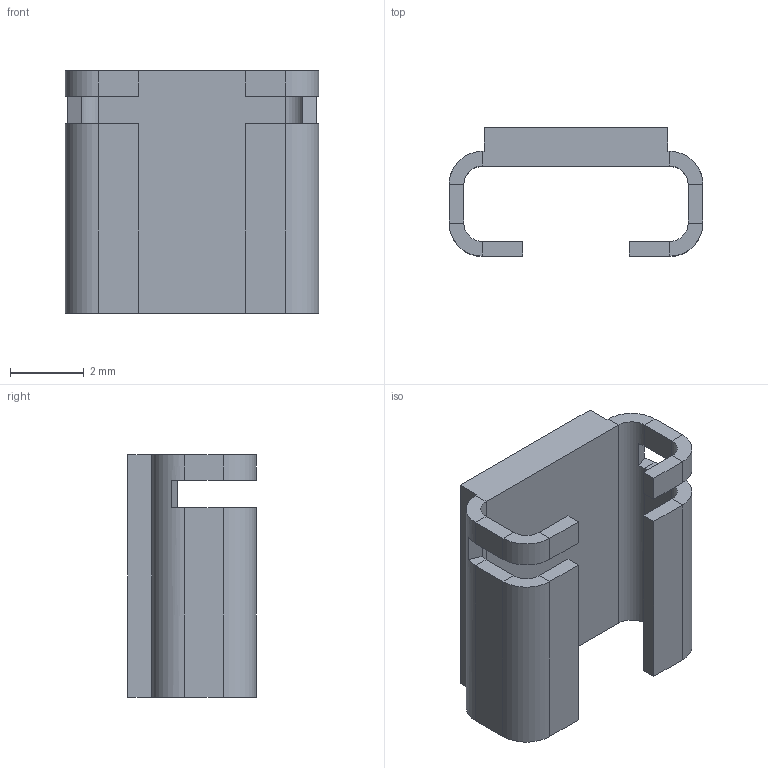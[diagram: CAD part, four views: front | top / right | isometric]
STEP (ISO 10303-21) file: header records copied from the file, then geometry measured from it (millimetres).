
FILE_DESCRIPTION (( 'STEP AP203' ), '1' );
FILE_NAME ('RSHJ2726-1.3m次-F曾磁踢.STEP', '2023-07-17T03:04:02', ( '' ), ( '' ), 'SwSTEP 2.0', 'SolidWorks 2020', '' );
FILE_SCHEMA (( 'CONFIG_CONTROL_DESIGN' ));
Length unit declared in the file: millimetre
Products named in the file (1): RSHJ2726-1.3m次-F曾磁踢
Bounding box: 6.9 x 3.5 x 6.6 mm (x, y, z)
Volume: 55.8 mm3; surface area: 208.8 mm2
Topology: 1 solids, 1 shells, 74 faces, 160 edges, 88 vertices
Faces by surface type: plane 62, cylinder 12
Entity records: 2005 total; most frequent: DIRECTION 342, CARTESIAN_POINT 323, ORIENTED_EDGE 320, EDGE_CURVE 160, LINE 128, VECTOR 128, AXIS2_PLACEMENT_3D 107, VERTEX_POINT 88
